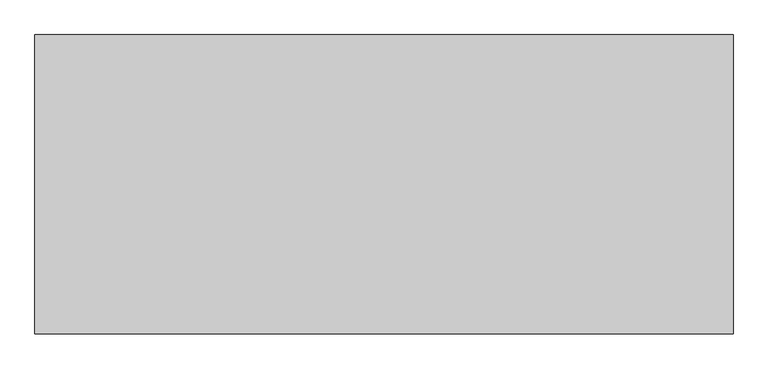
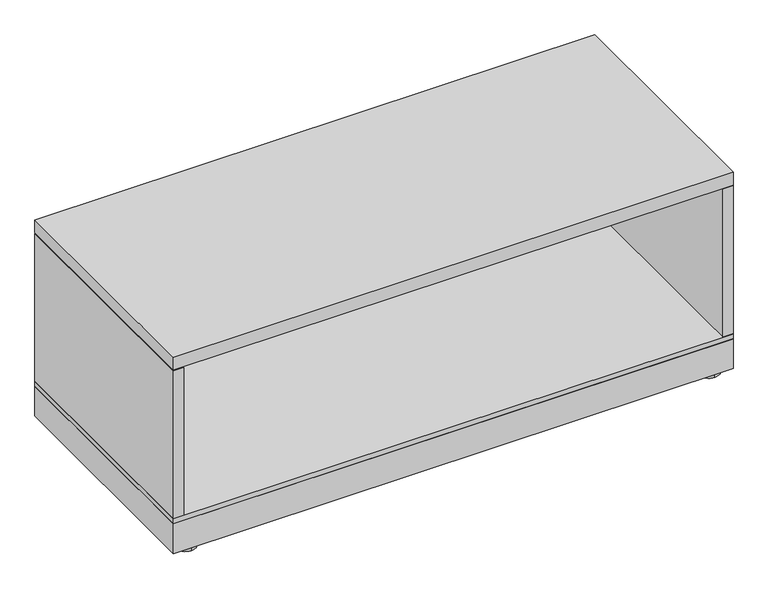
"""IFC4 building model written with IfcOpenShell, lengths in millimetres: furniture geometry, Steelcase - Universal Storage - Lateral File - 1 High - Flush Steel : Open - 18D x 42W."""

from ifc_helpers import new_model, si_unit, point, frame, frame_2d, origin, origin_with_axes, place, context, project, spatial, polyline, circle_curve, trimmed, segment, composite_curve, outline, extrude, source, transform, mapped, element, save


def furniture_ca9f1368(model_context):
    return source(origin(), model_context, "Body", "SweptSolid", [
        extrude(outline(polyline([(1066.8, 457.2), (1066.8, 0.0), (0.0, 0.0), (0.0, 457.2), (1066.8, 457.2)])), frame((0.0, 0.0, 6.3500002), z_axis=(0.0, 0.0, 1.0), x_axis=(1.0, 0.0, 0.0)), (0.0, 0.0, 1.0), 59.6899998),
        extrude(outline(composite_curve([segment(trimmed(circle_curve(frame_2d((1032.1290058, 434.8633666)), 20.32), [point((1032.1290058, 414.5433666))], [point((1032.1290058, 455.1833666))], False, "CARTESIAN"), True, "CONTINUOUS"), segment(trimmed(circle_curve(frame_2d((1032.1290058, 434.8633666)), 20.32), [point((1032.1290058, 455.1833666))], [point((1032.1290058, 414.5433666))], False, "CARTESIAN"), True, "CONTINUOUS")], self_intersect=False)), origin_with_axes(), (0.0, 0.0, 1.0), 6.3500002),
        extrude(outline(composite_curve([segment(trimmed(circle_curve(frame_2d((1032.1290058, 20.7491455)), 20.32), [point((1032.1290058, 0.4291455))], [point((1032.1290058, 41.0691455))], False, "CARTESIAN"), True, "CONTINUOUS"), segment(trimmed(circle_curve(frame_2d((1032.1290058, 20.7491455)), 20.32), [point((1032.1290058, 41.0691455))], [point((1032.1290058, 0.4291455))], False, "CARTESIAN"), True, "CONTINUOUS")], self_intersect=False)), origin_with_axes(), (0.0, 0.0, 1.0), 6.3500002),
        extrude(outline(composite_curve([segment(trimmed(circle_curve(frame_2d((34.29, 434.8633666)), 20.32), [point((34.29, 455.1833666))], [point((34.29, 414.5433666))], False, "CARTESIAN"), True, "CONTINUOUS"), segment(trimmed(circle_curve(frame_2d((34.29, 434.8633666)), 20.32), [point((34.29, 414.5433666))], [point((34.29, 455.1833666))], False, "CARTESIAN"), True, "CONTINUOUS")], self_intersect=False)), origin_with_axes(), (0.0, 0.0, 1.0), 6.3500002),
        extrude(outline(composite_curve([segment(trimmed(circle_curve(frame_2d((34.29, 20.7491455)), 20.32), [point((34.29, 41.0691455))], [point((34.29, 0.4291455))], False, "CARTESIAN"), True, "CONTINUOUS"), segment(trimmed(circle_curve(frame_2d((34.29, 20.7491455)), 20.32), [point((34.29, 0.4291455))], [point((34.29, 41.0691455))], False, "CARTESIAN"), True, "CONTINUOUS")], self_intersect=False)), origin_with_axes(), (0.0, 0.0, 1.0), 6.3500002),
        extrude(outline(polyline([(1066.8, 0.0), (0.0, 0.0), (0.0, 457.2), (1066.8, 457.2), (1066.8, 0.0)])), frame((0.0, 0.0, 376.3010136), z_axis=(0.0, 0.0, 1.0), x_axis=(1.0, 0.0, 0.0)), (0.0, 0.0, 1.0), 25.3999758),
        extrude(outline(polyline([(1066.8, 0.0), (0.0, 0.0), (0.0, 457.2), (1066.8, 457.2), (1066.8, 0.0)])), frame((0.0, 0.0, 66.04), z_axis=(0.0, 0.0, 1.0), x_axis=(1.0, 0.0, 0.0)), (0.0, 0.0, 1.0), 10.16),
        extrude(outline(polyline([(0.0, 457.2), (1066.8, 457.2), (1066.8, 0.0), (1047.2419641, 0.0), (1047.2419641, 456.438), (19.558, 456.438), (19.558, 0.0), (0.0, 0.0), (0.0, 457.2)])), frame((0.0, 0.0, 76.2), z_axis=(0.0, 0.0, 1.0), x_axis=(1.0, 0.0, 0.0)), (0.0, 0.0, 1.0), 298.577),
    ])


if __name__ == "__main__":
    model = new_model("IFC4")
    model_context = context("Model", 3, world=origin())
    ifc_project = project(units=[si_unit("LENGTHUNIT", "METRE", prefix="MILLI")], contexts=[model_context])
    site = spatial("IfcSite", under=ifc_project)
    building = spatial("IfcBuilding", under=site)
    placement = place(None, origin())
    furniture_shape = furniture_ca9f1368(model_context)
    element("IfcFurniture", 1, ObjectType="Steelcase - Universal Storage - Lateral File - 1 High - Flush Steel : Open - 18D x 42W", at=placement, inside=building, context=model_context, shape_type="MappedRepresentation", body=[
        mapped(furniture_shape, transform((0.0, 0.0, 0.0), x_axis=(1.0, 0.0, 0.0), y_axis=(0.0, 1.0, 0.0), z_axis=(0.0, 0.0, 1.0))),
    ])
    save(model, "model.ifc")
